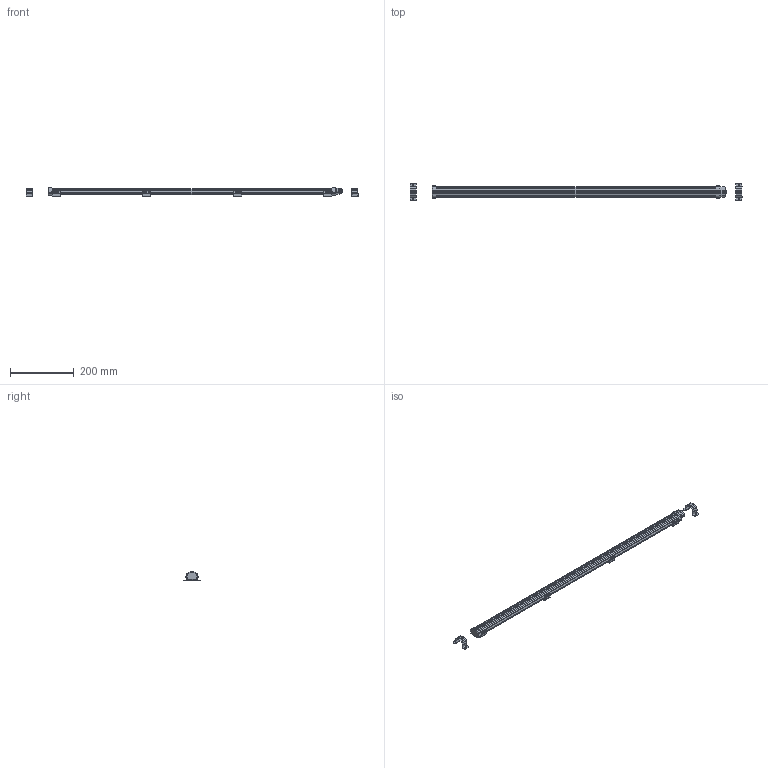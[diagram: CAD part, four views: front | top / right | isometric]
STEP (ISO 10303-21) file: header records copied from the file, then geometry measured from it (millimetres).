
FILE_DESCRIPTION (( 'STEP AP203' ), '1' );
FILE_NAME ('CWA-9(01)-01.STEP', '2016-11-17T04:50:20', ( '' ), ( '' ), 'SwSTEP 2.0', 'SolidWorks 2015', '' );
FILE_SCHEMA (( 'CONFIG_CONTROL_DESIGN' ));
Length unit declared in the file: inch
Products named in the file (8): Light Bar; Bracket1; Bracket4; Bracket2; Holding Bracket1; Bracket3; Holding Bracket2; CWA-9(01)-01
Assembly tree (7 placements, depth 2):
  CWA-9(01)-01
    Light Bar
    Bracket1
    Bracket2
    Bracket3
    Bracket4
    Holding Bracket1
    Holding Bracket2
Bounding box: 1039.5 x 54 x 27.2 mm (x, y, z)
Volume: 514369.5 mm3; surface area: 105087.8 mm2
Topology: 7 solids, 7 shells, 463 faces, 1237 edges, 792 vertices
Faces by surface type: plane 307, cylinder 110, bspline 44, cone 2
Entity records: 17944 total; most frequent: CARTESIAN_POINT 6083, ORIENTED_EDGE 2474, DIRECTION 2019, EDGE_CURVE 1237, VECTOR 953, LINE 953, VERTEX_POINT 792, AXIS2_PLACEMENT_3D 533
